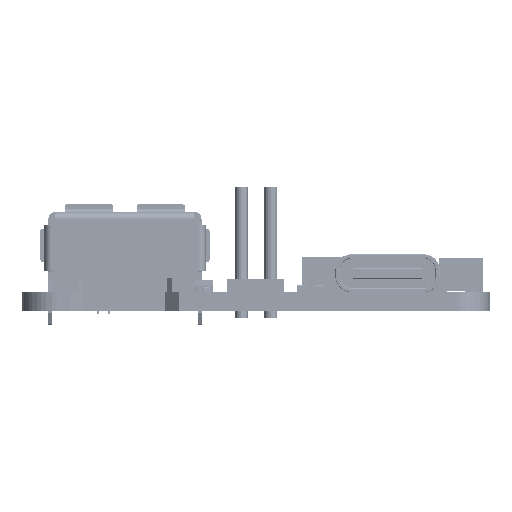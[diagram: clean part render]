
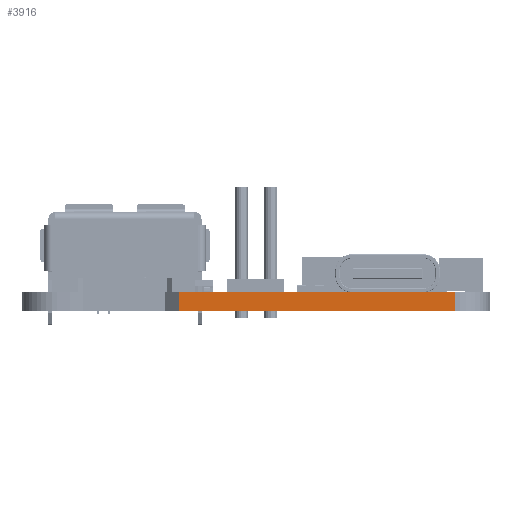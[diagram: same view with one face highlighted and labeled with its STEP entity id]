
A CAD part, left-side view. The second image highlights one B-rep face of the part: STEP entity #3916.
In plain terms, the highlighted planar face has unit normal (-1, 0, 0).
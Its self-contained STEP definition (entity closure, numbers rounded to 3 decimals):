
#327 = PLANE('',#328);
#328 = AXIS2_PLACEMENT_3D('',#329,#330,#331);
#329 = CARTESIAN_POINT('',(161.416,262.841,0.));
#330 = DIRECTION('',(0.998,0.059,0.));
#331 = DIRECTION('',(0.059,-0.998,0.));
#355 = PLANE('',#356);
#356 = AXIS2_PLACEMENT_3D('',#357,#358,#359);
#357 = CARTESIAN_POINT('',(161.444,262.37,1.6));
#358 = DIRECTION('',(0.,0.,-1.));
#359 = DIRECTION('',(-1.,0.,0.));
#409 = PLANE('',#410);
#410 = AXIS2_PLACEMENT_3D('',#411,#412,#413);
#411 = CARTESIAN_POINT('',(161.444,262.37,0.));
#412 = DIRECTION('',(0.,0.,-1.));
#413 = DIRECTION('',(-1.,0.,0.));
#3808 = PLANE('',#3809);
#3809 = AXIS2_PLACEMENT_3D('',#3810,#3811,#3812);
#3810 = CARTESIAN_POINT('',(162.6,287.6,0.));
#3811 = DIRECTION('',(0.707,-0.707,0.));
#3812 = DIRECTION('',(-0.707,-0.707,0.));
#3846 = VERTEX_POINT('',#3847);
#3847 = CARTESIAN_POINT('',(161.416,286.416,1.6));
#3868 = EDGE_CURVE('',#3869,#3846,#3871,.T.);
#3869 = VERTEX_POINT('',#3870);
#3870 = CARTESIAN_POINT('',(161.416,286.416,0.));
#3871 = SURFACE_CURVE('',#3872,(#3876,#3883),.PCURVE_S1.);
#3872 = LINE('',#3873,#3874);
#3873 = CARTESIAN_POINT('',(161.416,286.416,0.));
#3874 = VECTOR('',#3875,1.);
#3875 = DIRECTION('',(0.,0.,1.));
#3876 = PCURVE('',#3808,#3877);
#3877 = DEFINITIONAL_REPRESENTATION('',(#3878),#3882);
#3878 = LINE('',#3879,#3880);
#3879 = CARTESIAN_POINT('',(1.674,0.));
#3880 = VECTOR('',#3881,1.);
#3881 = DIRECTION('',(0.,-1.));
#3882 = ( GEOMETRIC_REPRESENTATION_CONTEXT(2) 
PARAMETRIC_REPRESENTATION_CONTEXT() REPRESENTATION_CONTEXT('2D SPACE',''
  ) );
#3883 = PCURVE('',#3884,#3889);
#3884 = PLANE('',#3885);
#3885 = AXIS2_PLACEMENT_3D('',#3886,#3887,#3888);
#3886 = CARTESIAN_POINT('',(161.416,286.416,0.));
#3887 = DIRECTION('',(1.,0.,0.));
#3888 = DIRECTION('',(0.,-1.,0.));
#3889 = DEFINITIONAL_REPRESENTATION('',(#3890),#3894);
#3890 = LINE('',#3891,#3892);
#3891 = CARTESIAN_POINT('',(0.,0.));
#3892 = VECTOR('',#3893,1.);
#3893 = DIRECTION('',(0.,-1.));
#3894 = ( GEOMETRIC_REPRESENTATION_CONTEXT(2) 
PARAMETRIC_REPRESENTATION_CONTEXT() REPRESENTATION_CONTEXT('2D SPACE',''
  ) );
#3916 = ADVANCED_FACE('',(#3917),#3884,.F.);
#3917 = FACE_BOUND('',#3918,.F.);
#3918 = EDGE_LOOP('',(#3919,#3920,#3943,#3966));
#3919 = ORIENTED_EDGE('',*,*,#3868,.T.);
#3920 = ORIENTED_EDGE('',*,*,#3921,.T.);
#3921 = EDGE_CURVE('',#3846,#3922,#3924,.T.);
#3922 = VERTEX_POINT('',#3923);
#3923 = CARTESIAN_POINT('',(161.416,262.841,1.6));
#3924 = SURFACE_CURVE('',#3925,(#3929,#3936),.PCURVE_S1.);
#3925 = LINE('',#3926,#3927);
#3926 = CARTESIAN_POINT('',(161.416,286.416,1.6));
#3927 = VECTOR('',#3928,1.);
#3928 = DIRECTION('',(0.,-1.,0.));
#3929 = PCURVE('',#3884,#3930);
#3930 = DEFINITIONAL_REPRESENTATION('',(#3931),#3935);
#3931 = LINE('',#3932,#3933);
#3932 = CARTESIAN_POINT('',(0.,-1.6));
#3933 = VECTOR('',#3934,1.);
#3934 = DIRECTION('',(1.,0.));
#3935 = ( GEOMETRIC_REPRESENTATION_CONTEXT(2) 
PARAMETRIC_REPRESENTATION_CONTEXT() REPRESENTATION_CONTEXT('2D SPACE',''
  ) );
#3936 = PCURVE('',#355,#3937);
#3937 = DEFINITIONAL_REPRESENTATION('',(#3938),#3942);
#3938 = LINE('',#3939,#3940);
#3939 = CARTESIAN_POINT('',(0.028,24.046));
#3940 = VECTOR('',#3941,1.);
#3941 = DIRECTION('',(0.,-1.));
#3942 = ( GEOMETRIC_REPRESENTATION_CONTEXT(2) 
PARAMETRIC_REPRESENTATION_CONTEXT() REPRESENTATION_CONTEXT('2D SPACE',''
  ) );
#3943 = ORIENTED_EDGE('',*,*,#3944,.F.);
#3944 = EDGE_CURVE('',#3945,#3922,#3947,.T.);
#3945 = VERTEX_POINT('',#3946);
#3946 = CARTESIAN_POINT('',(161.416,262.841,0.));
#3947 = SURFACE_CURVE('',#3948,(#3952,#3959),.PCURVE_S1.);
#3948 = LINE('',#3949,#3950);
#3949 = CARTESIAN_POINT('',(161.416,262.841,0.));
#3950 = VECTOR('',#3951,1.);
#3951 = DIRECTION('',(0.,0.,1.));
#3952 = PCURVE('',#3884,#3953);
#3953 = DEFINITIONAL_REPRESENTATION('',(#3954),#3958);
#3954 = LINE('',#3955,#3956);
#3955 = CARTESIAN_POINT('',(23.575,0.));
#3956 = VECTOR('',#3957,1.);
#3957 = DIRECTION('',(0.,-1.));
#3958 = ( GEOMETRIC_REPRESENTATION_CONTEXT(2) 
PARAMETRIC_REPRESENTATION_CONTEXT() REPRESENTATION_CONTEXT('2D SPACE',''
  ) );
#3959 = PCURVE('',#327,#3960);
#3960 = DEFINITIONAL_REPRESENTATION('',(#3961),#3965);
#3961 = LINE('',#3962,#3963);
#3962 = CARTESIAN_POINT('',(0.,0.));
#3963 = VECTOR('',#3964,1.);
#3964 = DIRECTION('',(0.,-1.));
#3965 = ( GEOMETRIC_REPRESENTATION_CONTEXT(2) 
PARAMETRIC_REPRESENTATION_CONTEXT() REPRESENTATION_CONTEXT('2D SPACE',''
  ) );
#3966 = ORIENTED_EDGE('',*,*,#3967,.F.);
#3967 = EDGE_CURVE('',#3869,#3945,#3968,.T.);
#3968 = SURFACE_CURVE('',#3969,(#3973,#3980),.PCURVE_S1.);
#3969 = LINE('',#3970,#3971);
#3970 = CARTESIAN_POINT('',(161.416,286.416,0.));
#3971 = VECTOR('',#3972,1.);
#3972 = DIRECTION('',(0.,-1.,0.));
#3973 = PCURVE('',#3884,#3974);
#3974 = DEFINITIONAL_REPRESENTATION('',(#3975),#3979);
#3975 = LINE('',#3976,#3977);
#3976 = CARTESIAN_POINT('',(0.,0.));
#3977 = VECTOR('',#3978,1.);
#3978 = DIRECTION('',(1.,0.));
#3979 = ( GEOMETRIC_REPRESENTATION_CONTEXT(2) 
PARAMETRIC_REPRESENTATION_CONTEXT() REPRESENTATION_CONTEXT('2D SPACE',''
  ) );
#3980 = PCURVE('',#409,#3981);
#3981 = DEFINITIONAL_REPRESENTATION('',(#3982),#3986);
#3982 = LINE('',#3983,#3984);
#3983 = CARTESIAN_POINT('',(0.028,24.046));
#3984 = VECTOR('',#3985,1.);
#3985 = DIRECTION('',(0.,-1.));
#3986 = ( GEOMETRIC_REPRESENTATION_CONTEXT(2) 
PARAMETRIC_REPRESENTATION_CONTEXT() REPRESENTATION_CONTEXT('2D SPACE',''
  ) );
